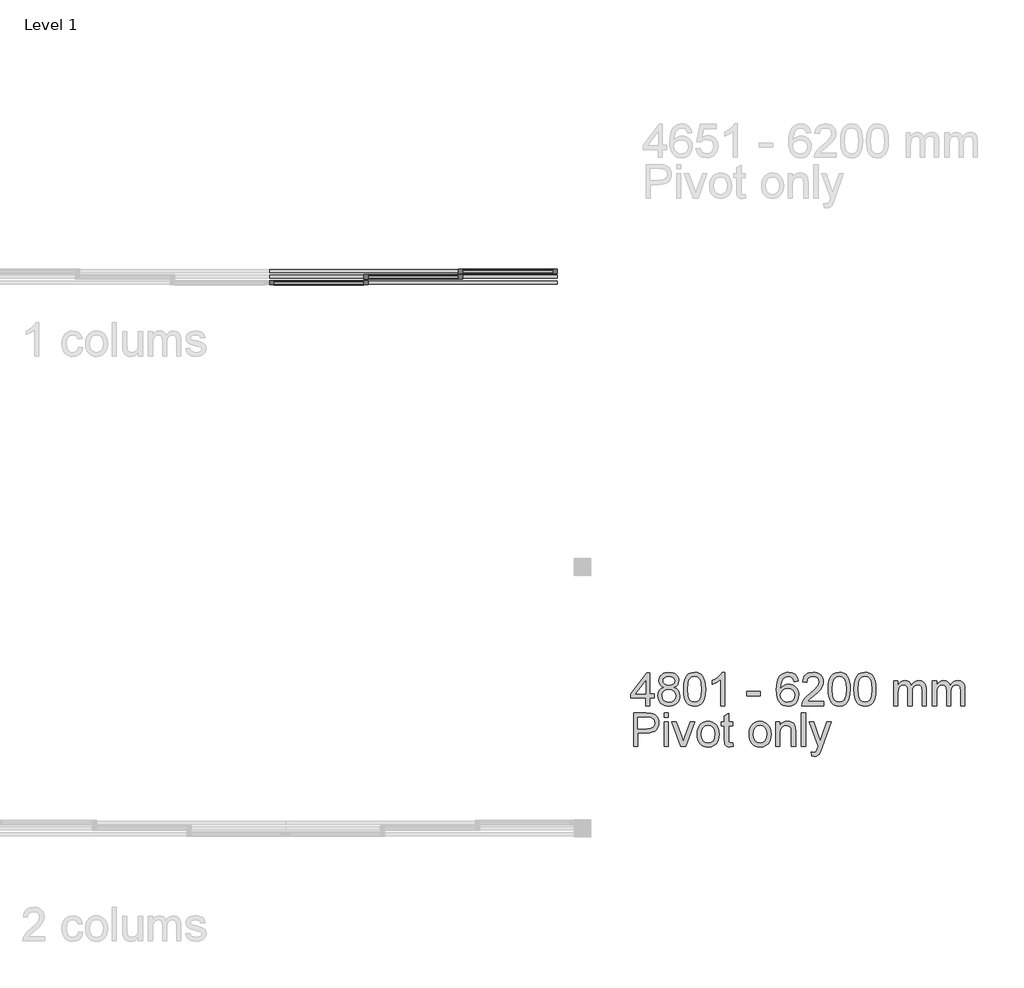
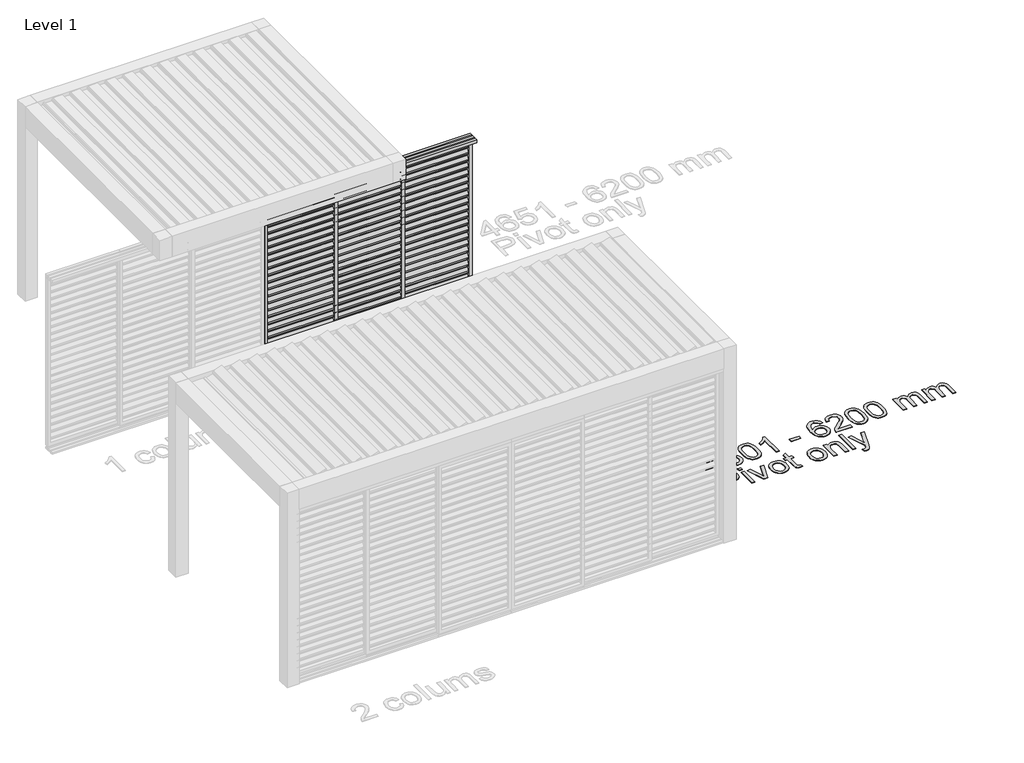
# One storey, part 26 of 69: 4 proxies.
"""IFC4 building model written with IfcOpenShell, lengths in millimetres."""

from ifc_helpers import new_model, si_unit, origin, origin_with_axes, place, context, project, spatial, polyline, outline, extrude, transform, mapped, element, save
from components import generic_models_bb3b5c1f, generic_models_54599b27, generic_models_b124467e

model = new_model("IFC4")

# Units and contexts
model_context = context("Model", 3, world=origin())
ifc_project = project(units=[si_unit("LENGTHUNIT", "METRE", prefix="MILLI")], contexts=[model_context])

# Site, building, storey
site = spatial("IfcSite", under=ifc_project)
building = spatial("IfcBuilding", under=site)
storey = spatial("IfcBuildingStorey", under=building, Name="Level 1", Elevation=0.0)

# Proxies
placement = place(None, origin())
generic_models_shape = generic_models_bb3b5c1f(model_context)
element("IfcBuildingElementProxy", 1, Name="Renson_Camargue_Loggia_Paro_Aluminium : Renson_Camargue_Loggia_Paro_Aluminium", ObjectType="Renson_Camargue_Loggia_Paro_Aluminium : Renson_Camargue_Loggia_Paro_Aluminium", at=placement, inside=storey, context=model_context, shape_type="MappedRepresentation", body=[
    mapped(generic_models_shape, transform((233983.7027724, -32969.5606558, 0.0), x_axis=(-1.0, 0.0, 0.0), y_axis=(0.0, -1.0, 0.0), z_axis=(0.0, 0.0, 1.0))),
])
generic_models_2_shape = generic_models_54599b27(model_context)
element("IfcBuildingElementProxy", 2, Name="Renson_Camargue_Loggia_Paro_Aluminium : Renson_Camargue_Loggia_Paro_Aluminium", ObjectType="Renson_Camargue_Loggia_Paro_Aluminium : Renson_Camargue_Loggia_Paro_Aluminium", at=placement, inside=storey, context=model_context, shape_type="MappedRepresentation", body=[
    mapped(generic_models_2_shape, transform((233133.7027724, -33018.1511599, 0.0), x_axis=(-1.0, 0.0, 0.0), y_axis=(0.0, -1.0, 0.0), z_axis=(0.0, 0.0, 1.0))),
])
generic_models_3_shape = generic_models_b124467e(model_context)
element("IfcBuildingElementProxy", 3, Name="Renson_Camargue_Loggia_Paro_Aluminium : Renson_Camargue_Loggia_Paro_Aluminium", ObjectType="Renson_Camargue_Loggia_Paro_Aluminium : Renson_Camargue_Loggia_Paro_Aluminium", at=placement, inside=storey, context=model_context, shape_type="MappedRepresentation", body=[
    mapped(generic_models_3_shape, transform((232283.7027724, -33071.741664, 0.0), x_axis=(-1.0, 0.0, 0.0), y_axis=(0.0, -1.0, 0.0), z_axis=(0.0, 0.0, 1.0))),
])
element("IfcBuildingElementProxy", 4, Name="300mm Arial", ObjectType="300mm Arial", at=placement, inside=storey, context=model_context, shape_type="SweptSolid", body=[
    extrude(outline(polyline([(235222.234808, -36875.0637053), (235222.234808, -36804.4303622), (235085.6770114, -36804.4303622), (235085.6770114, -36766.7592459), (235231.6525871, -36578.4036644), (235259.9059243, -36578.4036644), (235259.9059243, -36766.7592459), (235297.5770406, -36766.7592459), (235297.5770406, -36804.4303622), (235259.9059243, -36804.4303622), (235259.9059243, -36875.0637053), (235222.234808, -36875.0637053)]), holes=[polyline([(235222.234808, -36766.7592459), (235222.234808, -36650.3613827), (235132.0301428, -36766.7592459), (235222.234808, -36766.7592459)])]), origin_with_axes(), (0.0, 0.0, 1.0), 5.0),
    extrude(outline(polyline([(235385.427261, -36709.0753491), (235365.2581307, -36699.1425352), (235351.1038709, -36685.6780542), (235342.7437525, -36668.9578175), (235339.9570464, -36649.2577367), (235341.4745597, -36633.8940649), (235346.0270994, -36619.808783), (235353.6146655, -36607.001891), (235364.2372581, -36595.473389), (235377.3844409, -36585.9452453), (235392.5457776, -36579.1394284), (235428.9109129, -36573.6947749), (235465.4967773, -36579.2681871), (235480.8236609, -36586.2349524), (235494.1731788, -36595.9884238), (235504.9889095, -36607.7422535), (235512.7144314, -36620.7100938), (235517.3497445, -36634.8919448), (235518.8948489, -36650.2878063), (235516.144931, -36669.3532907), (235507.8951772, -36685.7884188), (235494.0536172, -36699.1701264), (235474.5282803, -36709.0753491), (235497.714043, -36721.0223169), (235514.5906295, -36738.6162733), (235524.8821284, -36761.0110898), (235528.312628, -36787.3606377), (235526.6111737, -36806.1502106), (235521.5068111, -36823.376285), (235512.9995399, -36839.0388609), (235501.0893603, -36853.1379384), (235486.4016717, -36864.7906006), (235469.5618733, -36873.1139307), (235450.5699653, -36878.1079288), (235429.4259477, -36879.7725949), (235408.28193, -36878.101031), (235389.290022, -36873.0863396), (235372.4502237, -36864.7285205), (235357.762535, -36853.0275738), (235345.8523554, -36838.8296281), (235337.3450843, -36822.9808118), (235332.2407216, -36805.4811252), (235330.5392674, -36786.3305681), (235334.1077227, -36758.9601476), (235344.8130888, -36736.4457695), (235362.1035425, -36719.559986), (235385.427261, -36709.0753491)]), holes=[polyline([(235368.2103837, -36785.0061929), (235374.5011658, -36813.3698947), (235383.210772, -36825.5375917), (235396.7580265, -36834.5966858), (235412.9816225, -36840.2252804), (235429.7202533, -36842.1014785), (235455.3616283, -36838.1559441), (235474.6018567, -36826.319341), (235486.6315979, -36808.3942907), (235490.6415117, -36786.1834153), (235486.5028392, -36763.5954608), (235474.0868219, -36745.2749374), (235454.4051351, -36733.1348316), (235428.4694545, -36729.0881296), (235403.1867644, -36733.0796493), (235384.1396741, -36745.0542082), (235372.1927063, -36763.0252437), (235368.2103837, -36785.0061929)]), polyline([(235377.6281627, -36650.3613827), (235380.9666918, -36666.8057078), (235390.9822792, -36679.9390951), (235407.3806191, -36688.5475338), (235429.8674061, -36691.4170133), (235451.8299612, -36688.5659279), (235467.9799808, -36680.0126715), (235477.9127946, -36667.3207426), (235481.2237326, -36652.0536398), (235477.80243, -36636.2071229), (235467.5385224, -36623.1013268), (235451.1677736, -36614.2997501), (235429.4259477, -36611.3658912), (235407.546166, -36614.2353707), (235391.2030084, -36622.8438094), (235381.0218741, -36635.4621619), (235377.6281627, -36650.3613827)])]), origin_with_axes(), (0.0, 0.0, 1.0), 5.0),
    extrude(outline(polyline([(235561.2748547, -36726.8072613), (235564.0431667, -36678.5687346), (235572.3481028, -36640.097475), (235586.1068894, -36610.8048711), (235605.2367532, -36590.1023118), (235629.8756498, -36577.7966591), (235660.161535, -36573.6947749), (235683.3748889, -36576.122796), (235704.1602217, -36583.4068595), (235721.5426459, -36595.2618568), (235734.5472745, -36611.4026794), (235744.3697237, -36631.6913714), (235752.2056102, -36655.9899772), (235757.3375641, -36686.8460795), (235759.0482153, -36726.8072613), (235756.3074945, -36774.7698764), (235748.0853319, -36813.1491655), (235734.4093187, -36842.4693605), (235715.3070461, -36863.2546933), (235690.6129672, -36875.6431195), (235660.161535, -36879.7725949), (235639.4129905, -36877.9791701), (235621.0188907, -36872.5988959), (235604.9792358, -36863.6317723), (235591.2940255, -36851.0777992), (235578.1606383, -36828.3840787), (235568.7796474, -36800.1077488), (235563.1510529, -36766.2488097), (235561.2748547, -36726.8072613)]), holes=[polyline([(235598.945971, -36726.7336849), (235603.360555, -36785.9902772), (235608.8787849, -36806.2582759), (235616.6043068, -36820.2860762), (235636.3227817, -36836.647628), (235660.161535, -36842.1014785), (235684.0002883, -36836.6292339), (235703.7187633, -36820.2124998), (235711.4442852, -36806.1617069), (235716.9625151, -36785.8983067), (235721.377099, -36726.7336849), (235717.1096679, -36668.8106647), (235711.775379, -36648.6093447), (235704.3073745, -36634.2481513), (235684.6256877, -36617.0864562), (235659.7200766, -36611.3658912), (235636.1388407, -36616.4058745), (235617.192918, -36631.5258245), (235609.2098787, -36647.1608093), (235603.5077078, -36668.2404476), (235598.945971, -36726.7336849)])]), origin_with_axes(), (0.0, 0.0, 1.0), 5.0),
    extrude(outline(polyline([(235933.2771283, -36875.0637053), (235895.6060119, -36875.0637053), (235895.6060119, -36640.2078396), (235859.9214584, -36665.6284855), (235820.2637793, -36684.6479846), (235820.2637793, -36649.0370075), (235849.8506888, -36632.9421702), (235875.4828668, -36613.7939123), (235895.6887854, -36593.4316439), (235908.9969166, -36573.6947749), (235933.2771283, -36573.6947749), (235933.2771283, -36875.0637053)])), origin_with_axes(), (0.0, 0.0, 1.0), 5.0),
    extrude(outline(polyline([(236131.0504889, -36785.5948041), (236131.0504889, -36747.9236878), (236248.7727273, -36747.9236878), (236248.7727273, -36785.5948041), (236131.0504889, -36785.5948041)])), origin_with_axes(), (0.0, 0.0, 1.0), 5.0),
    extrude(outline(polyline([(236592.5216636, -36653.745897), (236554.8505473, -36658.4547866), (236548.7804944, -36639.7847753), (236540.5767259, -36627.0376642), (236523.4886072, -36615.2838344), (236502.8320332, -36611.3658912), (236485.3208502, -36613.6467595), (236468.8397368, -36620.4893647), (236454.6854771, -36634.9011418), (236443.1247854, -36654.7391784), (236435.31649, -36682.7993776), (236432.4194193, -36721.8776425), (236447.5301723, -36704.2468979), (236465.6391635, -36691.8216835), (236485.7347175, -36684.4548466), (236506.8051587, -36681.9992342), (236524.9049529, -36683.6776958), (236541.6067955, -36688.7130807), (236556.9106865, -36697.1053887), (236570.8166259, -36708.8546199), (236582.3727191, -36723.2617985), (236590.6270713, -36739.6279488), (236595.5796827, -36757.9530707), (236597.2305531, -36778.2371642), (236594.1219503, -36805.2121115), (236584.7961417, -36830.2188901), (236570.0256796, -36851.4272871), (236550.5831162, -36867.0070896), (236527.3513682, -36876.5812185), (236501.2133524, -36879.7725949), (236478.7564559, -36877.6572734), (236458.4746616, -36871.311309), (236440.3679697, -36860.7347016), (236424.43638, -36845.9274513), (236411.4478463, -36826.2641587), (236402.1703223, -36801.1194243), (236396.6038078, -36770.4932482), (236394.748303, -36734.3856304), (236396.8084422, -36693.9048153), (236402.9888597, -36659.3560974), (236413.2895556, -36630.7394767), (236427.7105298, -36608.0549532), (236443.340916, -36593.0223752), (236461.4637028, -36582.2848195), (236482.0788901, -36575.842286), (236505.186478, -36573.6947749), (236538.2406752, -36579.0106697), (236564.7097848, -36594.9583542), (236583.2510373, -36620.2870296), (236592.5216636, -36653.745897)]), holes=[polyline([(236432.4194193, -36777.648553), (236434.5991201, -36794.3411985), (236441.1382226, -36810.279686), (236451.2917657, -36823.9832903), (236464.3147883, -36833.9712865), (236480.0325465, -36840.0689305), (236498.2702964, -36842.1014785), (236523.1299223, -36837.8892297), (236542.6736533, -36825.2524832), (236555.3379909, -36805.3868554), (236559.5594368, -36779.487963), (236555.3931732, -36754.6283371), (236542.8943825, -36735.6732173), (236523.0195577, -36723.6710672), (236496.7251921, -36719.6703506), (236471.9023544, -36723.6710672), (236451.1446129, -36735.6732173), (236437.1007177, -36754.1684846), (236432.4194193, -36777.648553)])]), origin_with_axes(), (0.0, 0.0, 1.0), 5.0),
    extrude(outline(polyline([(236823.257251, -36837.392589), (236823.257251, -36875.0637053), (236625.4838904, -36875.0637053), (236629.5305923, -36849.0912365), (236638.8196127, -36828.7933474), (236652.4128524, -36809.1024636), (236672.0761451, -36788.4918748), (236699.5753242, -36765.4348708), (236740.2262847, -36729.3272529), (236764.616861, -36702.6742024), (236776.8121491, -36681.0427411), (236780.8772451, -36659.9998909), (236777.0420753, -36641.1367416), (236765.5365659, -36625.4557716), (236747.850639, -36614.8883613), (236725.4742167, -36611.3658912), (236701.9757542, -36614.8055878), (236683.7196102, -36625.1246778), (236671.9381893, -36641.5138207), (236667.8638962, -36663.1636761), (236630.1927799, -36658.4547866), (236639.3254504, -36622.0160749), (236647.871809, -36607.4801376), (236659.0715165, -36595.3998126), (236672.6670555, -36585.9038586), (236688.4009086, -36579.1210343), (236726.2835571, -36573.6947749), (236746.4733808, -36575.203091), (236764.442117, -36579.7280396), (236780.1897657, -36587.2696205), (236793.7163268, -36597.8278337), (236804.5803419, -36610.6209301), (236812.3403528, -36624.8671604), (236816.9963593, -36640.5665245), (236818.5483614, -36657.7190226), (236816.8744984, -36675.7360433), (236811.8529091, -36693.4403643), (236802.9409678, -36711.448188), (236789.5960484, -36730.3757166), (236768.3232721, -36752.9728682), (236735.6277597, -36781.9895605), (236692.2912607, -36818.2259371), (236675.2951125, -36837.392589), (236823.257251, -36837.392589)])), origin_with_axes(), (0.0, 0.0, 1.0), 5.0),
    extrude(outline(polyline([(236860.9283673, -36726.8072613), (236863.6966793, -36678.5687346), (236872.0016153, -36640.097475), (236885.760402, -36610.8048711), (236904.8902657, -36590.1023118), (236929.5291623, -36577.7966591), (236959.8150476, -36573.6947749), (236983.0284015, -36576.122796), (237003.8137342, -36583.4068595), (237021.1961585, -36595.2618568), (237034.200787, -36611.4026794), (237044.0232363, -36631.6913714), (237051.8591228, -36655.9899772), (237056.9910766, -36686.8460795), (237058.7017279, -36726.8072613), (237055.961007, -36774.7698764), (237047.7388444, -36813.1491655), (237034.0628313, -36842.4693605), (237014.9605587, -36863.2546933), (236990.2664797, -36875.6431195), (236959.8150476, -36879.7725949), (236939.0665031, -36877.9791701), (236920.6724033, -36872.5988959), (236904.6327483, -36863.6317723), (236890.9475381, -36851.0777992), (236877.8141509, -36828.3840787), (236868.43316, -36800.1077488), (236862.8045655, -36766.2488097), (236860.9283673, -36726.8072613)]), holes=[polyline([(236898.5994836, -36726.7336849), (236903.0140675, -36785.9902772), (236908.5322975, -36806.2582759), (236916.2578194, -36820.2860762), (236935.9762943, -36836.647628), (236959.8150476, -36842.1014785), (236983.6538009, -36836.6292339), (237003.3722758, -36820.2124998), (237011.0977977, -36806.1617069), (237016.6160277, -36785.8983067), (237021.0306116, -36726.7336849), (237016.7631804, -36668.8106647), (237011.4288915, -36648.6093447), (237003.960887, -36634.2481513), (236984.2792003, -36617.0864562), (236959.3735892, -36611.3658912), (236935.7923533, -36616.4058745), (236916.8464306, -36631.5258245), (236908.8633913, -36647.1608093), (236903.1612203, -36668.2404476), (236898.5994836, -36726.7336849)])]), origin_with_axes(), (0.0, 0.0, 1.0), 5.0),
    extrude(outline(polyline([(237091.6639547, -36726.8072613), (237094.4322667, -36678.5687346), (237102.7372027, -36640.097475), (237116.4959893, -36610.8048711), (237135.6258531, -36590.1023118), (237160.2647497, -36577.7966591), (237190.550635, -36573.6947749), (237213.7639889, -36576.122796), (237234.5493216, -36583.4068595), (237251.9317459, -36595.2618568), (237264.9363744, -36611.4026794), (237274.7588237, -36631.6913714), (237282.5947102, -36655.9899772), (237287.726664, -36686.8460795), (237289.4373153, -36726.8072613), (237286.6965944, -36774.7698764), (237278.4744318, -36813.1491655), (237264.7984186, -36842.4693605), (237245.696146, -36863.2546933), (237221.0020671, -36875.6431195), (237190.550635, -36879.7725949), (237169.8020904, -36877.9791701), (237151.4079907, -36872.5988959), (237135.3683357, -36863.6317723), (237121.6831255, -36851.0777992), (237108.5497382, -36828.3840787), (237099.1687474, -36800.1077488), (237093.5401528, -36766.2488097), (237091.6639547, -36726.8072613)]), holes=[polyline([(237129.335071, -36726.7336849), (237133.7496549, -36785.9902772), (237139.2678848, -36806.2582759), (237146.9934067, -36820.2860762), (237166.7118817, -36836.647628), (237190.550635, -36842.1014785), (237214.3893883, -36836.6292339), (237234.1078632, -36820.2124998), (237241.8333851, -36806.1617069), (237247.351615, -36785.8983067), (237251.766199, -36726.7336849), (237247.4987678, -36668.8106647), (237242.1644789, -36648.6093447), (237234.6964744, -36634.2481513), (237215.0147876, -36617.0864562), (237190.1091766, -36611.3658912), (237166.5279407, -36616.4058745), (237147.5820179, -36631.5258245), (237139.5989786, -36647.1608093), (237133.8968077, -36668.2404476), (237129.335071, -36726.7336849)])]), origin_with_axes(), (0.0, 0.0, 1.0), 5.0),
    extrude(outline(polyline([(237449.5395596, -36875.0637053), (237449.5395596, -36653.745897), (237487.2106759, -36653.745897), (237487.2106759, -36690.1662145), (237498.5414413, -36673.4367808), (237513.1095683, -36660.3309847), (237530.4184162, -36651.8605018), (237549.9713443, -36649.0370075), (237570.9222239, -36651.9156841), (237587.716037, -36660.5517139), (237600.260813, -36674.3748799), (237608.4645815, -36692.8149649), (237622.195777, -36673.6621085), (237637.8583529, -36659.9814968), (237655.4523093, -36651.7731298), (237674.9776462, -36649.0370075), (237703.2953628, -36653.5895472), (237724.2370454, -36667.2471662), (237737.1772946, -36690.3777467), (237741.4907109, -36723.3491705), (237741.4907109, -36875.0637053), (237703.8195946, -36875.0637053), (237703.8195946, -36739.5359783), (237700.3247157, -36708.0820677), (237695.4134911, -36699.4092497), (237687.6695751, -36692.5942357), (237677.70917, -36688.1796518), (237666.1484783, -36686.7081238), (237645.7402247, -36690.4789142), (237629.1027614, -36701.7912856), (237618.0387104, -36721.41779), (237614.3506934, -36750.1309798), (237614.3506934, -36875.0637053), (237576.6795771, -36875.0637053), (237576.6795771, -36735.3421235), (237574.4998763, -36714.041756), (237567.9607738, -36698.8482296), (237556.4552644, -36689.7431502), (237539.3763428, -36686.7081238), (237524.8633981, -36688.7314748), (237511.4908876, -36694.8015277), (237500.4544277, -36704.7711297), (237492.949635, -36718.4931282), (237488.6454157, -36737.5310214), (237487.2106759, -36763.448308), (237487.2106759, -36875.0637053), (237449.5395596, -36875.0637053)])), origin_with_axes(), (0.0, 0.0, 1.0), 5.0),
    extrude(outline(polyline([(237797.9973854, -36875.0637053), (237797.9973854, -36653.745897), (237835.6685017, -36653.745897), (237835.6685017, -36690.1662145), (237846.9992672, -36673.4367808), (237861.5673942, -36660.3309847), (237878.876242, -36651.8605018), (237898.4291701, -36649.0370075), (237919.3800497, -36651.9156841), (237936.1738628, -36660.5517139), (237948.7186388, -36674.3748799), (237956.9224073, -36692.8149649), (237970.6536028, -36673.6621085), (237986.3161787, -36659.9814968), (238003.9101352, -36651.7731298), (238023.4354721, -36649.0370075), (238051.7531886, -36653.5895472), (238072.6948712, -36667.2471662), (238085.6351204, -36690.3777467), (238089.9485368, -36723.3491705), (238089.9485368, -36875.0637053), (238052.2774205, -36875.0637053), (238052.2774205, -36739.5359783), (238048.7825415, -36708.0820677), (238043.8713169, -36699.4092497), (238036.1274009, -36692.5942357), (238026.1669959, -36688.1796518), (238014.6063042, -36686.7081238), (237994.1980505, -36690.4789142), (237977.5605873, -36701.7912856), (237966.4965362, -36721.41779), (237962.8085192, -36750.1309798), (237962.8085192, -36875.0637053), (237925.1374029, -36875.0637053), (237925.1374029, -36735.3421235), (237922.9577021, -36714.041756), (237916.4185997, -36698.8482296), (237904.9130903, -36689.7431502), (237887.8341686, -36686.7081238), (237873.3212239, -36688.7314748), (237859.9487134, -36694.8015277), (237848.9122535, -36704.7711297), (237841.4074608, -36718.4931282), (237837.1032415, -36737.5310214), (237835.6685017, -36763.448308), (237835.6685017, -36875.0637053), (237797.9973854, -36875.0637053)])), origin_with_axes(), (0.0, 0.0, 1.0), 5.0),
    extrude(outline(polyline([(235113.9303486, -37240.9881588), (235113.9303486, -36939.6192284), (235225.6193223, -36939.6192284), (235270.6480785, -36942.488708), (235290.7252384, -36947.850588), (235307.2523371, -36956.5785884), (235320.5604682, -36969.0681821), (235330.9807258, -36985.7148424), (235337.7129663, -37005.3505439), (235339.9570464, -37026.8072613), (235338.4418325, -37045.3071271), (235333.8961906, -37062.3262679), (235326.3201207, -37077.8646837), (235315.713623, -37091.9223744), (235301.1523937, -37103.5750366), (235281.7121295, -37111.8983667), (235257.3928304, -37116.8923648), (235228.1944963, -37118.5570309), (235151.6014649, -37118.5570309), (235151.6014649, -37240.9881588), (235113.9303486, -37240.9881588)]), holes=[polyline([(235151.6014649, -37080.8859145), (235230.4017883, -37080.8859145), (235263.8054734, -37077.4278238), (235285.8783931, -37067.0535515), (235298.1840459, -37050.4068912), (235302.2859301, -37028.1316364), (235299.867106, -37011.2090647), (235292.6106337, -36996.9352432), (235281.417824, -36986.193089), (235267.1899878, -36979.8655187), (235229.5188715, -36977.2903447), (235151.6014649, -36977.2903447), (235151.6014649, -37080.8859145)])]), origin_with_axes(), (0.0, 0.0, 1.0), 5.0),
    extrude(outline(polyline([(235387.0459418, -37240.9881588), (235387.0459418, -37019.6703506), (235424.7170581, -37019.6703506), (235424.7170581, -37240.9881588), (235387.0459418, -37240.9881588)])), origin_with_axes(), (0.0, 0.0, 1.0), 5.0),
    extrude(outline(polyline([(235387.0459418, -36977.2903447), (235387.0459418, -36939.6192284), (235424.7170581, -36939.6192284), (235424.7170581, -36977.2903447), (235387.0459418, -36977.2903447)])), origin_with_axes(), (0.0, 0.0, 1.0), 5.0),
    extrude(outline(polyline([(235535.5231151, -37240.9881588), (235457.6792849, -37019.6703506), (235497.5576932, -37019.6703506), (235544.7201649, -37152.2550216), (235558.92041, -37196.8423194), (235572.8263494, -37154.7566192), (235620.2831268, -37019.6703506), (235660.161535, -37019.6703506), (235583.274198, -37240.9881588), (235535.5231151, -37240.9881588)])), origin_with_axes(), (0.0, 0.0, 1.0), 5.0),
    extrude(outline(polyline([(235683.7059827, -37130.3292547), (235685.7431293, -37101.6666488), (235691.8545689, -37076.9679713), (235702.0403017, -37056.2332223), (235716.3003275, -37039.4624019), (235730.6569224, -37028.7432403), (235746.5034393, -37021.0866962), (235763.8398783, -37016.4927698), (235782.6662394, -37014.961461), (235803.4492729, -37016.8261629), (235822.2411451, -37022.4202685), (235839.0418559, -37031.7437778), (235853.8514055, -37044.7966908), (235865.9386283, -37061.1375492), (235874.5723589, -37080.3248945), (235879.7525972, -37102.3587268), (235881.4793433, -37127.2390459), (235878.4259228, -37165.2964383), (235869.2656611, -37194.2671455), (235854.2652727, -37215.9629861), (235833.6914722, -37232.1957792), (235809.2549106, -37242.3217311), (235782.6662394, -37245.6970484), (235761.5797033, -37243.8392443), (235742.6130872, -37238.2658321), (235725.7663911, -37228.9768117), (235711.039615, -37215.9721832), (235699.0811509, -37199.4726757), (235690.5393908, -37179.6990185), (235685.4143347, -37156.6512115), (235683.7059827, -37130.3292547)]), holes=[polyline([(235721.377099, -37130.2556783), (235725.7365007, -37164.3491422), (235738.8147056, -37188.6385509), (235758.4963923, -37203.1790868), (235782.6662394, -37208.0259321), (235806.7257219, -37203.1514956), (235826.3706205, -37188.5281863), (235839.4488254, -37163.9168809), (235843.808227, -37129.0784559), (235839.4212342, -37095.9782734), (235826.2602559, -37072.0199585), (235806.5877662, -37057.4794226), (235782.6662394, -37052.6325773), (235758.4963923, -37057.4610285), (235738.8147056, -37071.9463821), (235725.7365007, -37096.1806085), (235721.377099, -37130.2556783)])]), origin_with_axes(), (0.0, 0.0, 1.0), 5.0),
    extrude(outline(polyline([(236003.9104713, -37209.5710365), (236008.6193609, -37242.0918048), (235980.4396, -37245.6970484), (235962.3582, -37244.1335499), (235948.8753248, -37239.4430545), (235939.3471812, -37232.2141733), (235933.1299755, -37223.0355175), (235929.7086729, -37207.271774), (235928.5682387, -37180.2876296), (235928.5682387, -37057.3414669), (235900.3149015, -37057.3414669), (235900.3149015, -37019.6703506), (235928.5682387, -37019.6703506), (235928.5682387, -36965.8860029), (235966.239355, -36943.7395067), (235966.239355, -37019.6703506), (236003.9104713, -37019.6703506), (236003.9104713, -37057.3414669), (235966.239355, -37057.3414669), (235966.239355, -37179.1839837), (235968.2259178, -37198.608153), (235974.6638527, -37205.4875463), (235987.5029343, -37208.0259321), (236003.9104713, -37209.5710365)])), origin_with_axes(), (0.0, 0.0, 1.0), 5.0),
    extrude(outline(polyline([(236149.886047, -37130.3292547), (236151.9231936, -37101.6666488), (236158.0346332, -37076.9679713), (236168.2203659, -37056.2332223), (236182.4803918, -37039.4624019), (236196.8369866, -37028.7432403), (236212.6835036, -37021.0866962), (236230.0199426, -37016.4927698), (236248.8463037, -37014.961461), (236269.6293372, -37016.8261629), (236288.4212093, -37022.4202685), (236305.2219202, -37031.7437778), (236320.0314698, -37044.7966908), (236332.1186926, -37061.1375492), (236340.7524232, -37080.3248945), (236345.9326615, -37102.3587268), (236347.6594076, -37127.2390459), (236344.6059871, -37165.2964383), (236335.4457254, -37194.2671455), (236320.445337, -37215.9629861), (236299.8715364, -37232.1957792), (236275.4349749, -37242.3217311), (236248.8463037, -37245.6970484), (236227.7597676, -37243.8392443), (236208.7931515, -37238.2658321), (236191.9464554, -37228.9768117), (236177.2196793, -37215.9721832), (236165.2612151, -37199.4726757), (236156.7194551, -37179.6990185), (236151.594399, -37156.6512115), (236149.886047, -37130.3292547)]), holes=[polyline([(236187.5571633, -37130.2556783), (236191.916565, -37164.3491422), (236204.9947699, -37188.6385509), (236224.6764566, -37203.1790868), (236248.8463037, -37208.0259321), (236272.9057862, -37203.1514956), (236292.5506847, -37188.5281863), (236305.6288897, -37163.9168809), (236309.9882913, -37129.0784559), (236305.6012985, -37095.9782734), (236292.4403201, -37072.0199585), (236272.7678305, -37057.4794226), (236248.8463037, -37052.6325773), (236224.6764566, -37057.4610285), (236204.9947699, -37071.9463821), (236191.916565, -37096.1806085), (236187.5571633, -37130.2556783)])]), origin_with_axes(), (0.0, 0.0, 1.0), 5.0),
    extrude(outline(polyline([(236390.0394135, -37240.9881588), (236390.0394135, -37019.6703506), (236427.7105298, -37019.6703506), (236427.7105298, -37050.5724381), (236440.7979317, -37034.9926356), (236456.51569, -37023.8642053), (236474.8638045, -37017.1871471), (236495.8422753, -37014.961461), (236514.411119, -37016.7548857), (236531.4164642, -37022.1351599), (236545.5983151, -37030.4308989), (236555.6966759, -37040.9707181), (236566.9906531, -37068.6722323), (236568.9772159, -37105.0925498), (236568.9772159, -37240.9881588), (236531.3060996, -37240.9881588), (236531.3060996, -37110.1693214), (236526.9650921, -37076.8392126), (236520.9594185, -37066.9155958), (236511.6244129, -37059.217665), (236499.659051, -37054.2788492), (236485.7623086, -37052.6325773), (236463.6985859, -37056.3297914), (236444.8906189, -37067.4214335), (236437.3743299, -37076.4759291), (236432.0055521, -37088.8505597), (236427.7105298, -37123.560226), (236427.7105298, -37240.9881588), (236390.0394135, -37240.9881588)])), origin_with_axes(), (0.0, 0.0, 1.0), 5.0),
    extrude(outline(polyline([(236620.7750008, -37240.9881588), (236620.7750008, -36939.6192284), (236658.4461171, -36939.6192284), (236658.4461171, -37240.9881588), (236620.7750008, -37240.9881588)])), origin_with_axes(), (0.0, 0.0, 1.0), 5.0),
    extrude(outline(polyline([(236714.9527916, -37325.7481705), (236710.2439021, -37289.4750058), (236729.3737658, -37292.7859438), (236747.2528308, -37288.6288772), (236758.2157142, -37277.0405944), (236768.5164101, -37249.3022919), (236771.4594661, -37240.1788185), (236691.4083439, -37019.6703506), (236731.1395994, -37019.6703506), (236773.5931816, -37142.5429369), (236788.3820378, -37191.6919715), (236803.170894, -37148.2818961), (236846.8016987, -37019.6703506), (236886.2386486, -37019.6703506), (236809.2041588, -37246.2856596), (236789.1913782, -37295.4346941), (236778.9458647, -37311.1248612), (236767.3391877, -37321.9957742), (236753.8563126, -37328.3417386), (236737.9822045, -37330.4570601), (236714.9527916, -37325.7481705)])), origin_with_axes(), (0.0, 0.0, 1.0), 5.0),
])

save(model, "model.ifc")
